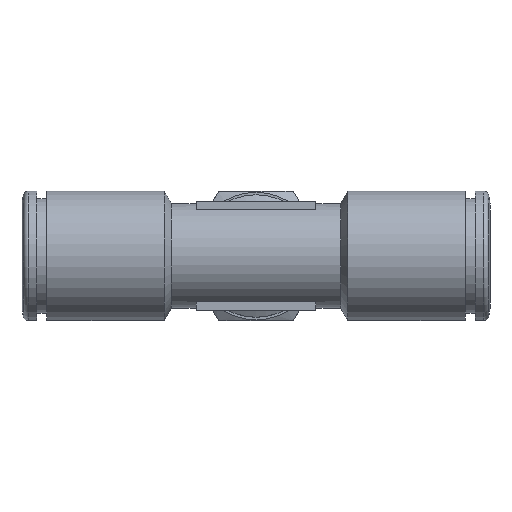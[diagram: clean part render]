
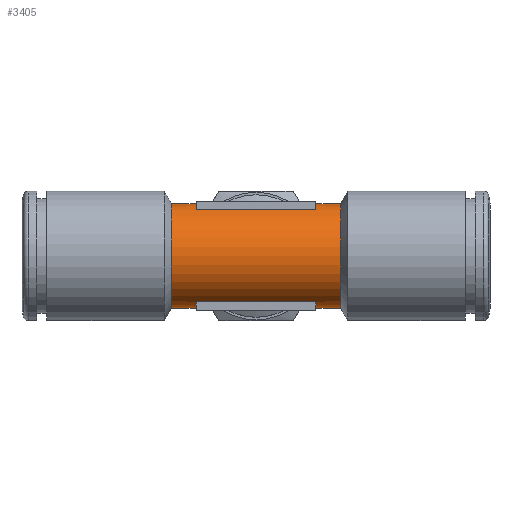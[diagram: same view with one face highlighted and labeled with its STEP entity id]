
A CAD part, top view. The second image highlights one B-rep face of the part: STEP entity #3405.
In plain terms, the highlighted cylindrical face has radius 5.25 mm (diameter 10.5 mm), a full revolution.
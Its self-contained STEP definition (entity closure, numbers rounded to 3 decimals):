
#17=ELLIPSE('',#3213,7.425,5.25);
#18=ELLIPSE('',#3216,7.425,5.25);
#1589=VECTOR('',#2854,1.);
#1590=VECTOR('',#2857,1.);
#1591=VECTOR('',#2860,1.);
#1592=VECTOR('',#2863,1.);
#1593=VECTOR('',#2866,1.);
#1594=VECTOR('',#2869,1.);
#1637=LINE('',#3600,#1589);
#1638=LINE('',#3604,#1590);
#1639=LINE('',#3608,#1591);
#1640=LINE('',#3612,#1592);
#1641=LINE('',#3616,#1593);
#1642=LINE('',#3620,#1594);
#1699=CYLINDRICAL_SURFACE('',#3210,5.25);
#1832=ORIENTED_EDGE('',*,*,#2261,.F.);
#1833=ORIENTED_EDGE('',*,*,#2262,.T.);
#1834=ORIENTED_EDGE('',*,*,#2263,.F.);
#1835=ORIENTED_EDGE('',*,*,#2264,.F.);
#1836=ORIENTED_EDGE('',*,*,#2265,.F.);
#1837=ORIENTED_EDGE('',*,*,#2266,.T.);
#1838=ORIENTED_EDGE('',*,*,#2267,.F.);
#1839=ORIENTED_EDGE('',*,*,#2268,.F.);
#1840=ORIENTED_EDGE('',*,*,#2269,.F.);
#1841=ORIENTED_EDGE('',*,*,#2270,.F.);
#1842=ORIENTED_EDGE('',*,*,#2271,.F.);
#1843=ORIENTED_EDGE('',*,*,#2272,.T.);
#1844=ORIENTED_EDGE('',*,*,#2273,.F.);
#1845=ORIENTED_EDGE('',*,*,#2274,.F.);
#2049=CIRCLE('',#3209,5.25);
#2050=CIRCLE('',#3211,5.25);
#2051=CIRCLE('',#3212,5.25);
#2052=CIRCLE('',#3214,5.25);
#2053=CIRCLE('',#3215,5.25);
#2054=CIRCLE('',#3217,5.25);
#2139=VERTEX_POINT('',#3593);
#2140=VERTEX_POINT('',#3596);
#2141=VERTEX_POINT('',#3598);
#2142=VERTEX_POINT('',#3599);
#2143=VERTEX_POINT('',#3601);
#2144=VERTEX_POINT('',#3603);
#2145=VERTEX_POINT('',#3605);
#2146=VERTEX_POINT('',#3607);
#2147=VERTEX_POINT('',#3609);
#2148=VERTEX_POINT('',#3611);
#2149=VERTEX_POINT('',#3613);
#2150=VERTEX_POINT('',#3615);
#2151=VERTEX_POINT('',#3617);
#2152=VERTEX_POINT('',#3619);
#2261=EDGE_CURVE('',#2139,#2139,#2049,.T.);
#2262=EDGE_CURVE('',#2140,#2140,#2050,.T.);
#2263=EDGE_CURVE('',#2141,#2142,#1637,.T.);
#2264=EDGE_CURVE('',#2143,#2141,#2051,.T.);
#2265=EDGE_CURVE('',#2144,#2143,#1638,.T.);
#2266=EDGE_CURVE('',#2144,#2145,#17,.T.);
#2267=EDGE_CURVE('',#2146,#2145,#1639,.T.);
#2268=EDGE_CURVE('',#2147,#2146,#2052,.T.);
#2269=EDGE_CURVE('',#2148,#2147,#1640,.T.);
#2270=EDGE_CURVE('',#2149,#2148,#2053,.T.);
#2271=EDGE_CURVE('',#2150,#2149,#1641,.T.);
#2272=EDGE_CURVE('',#2150,#2151,#18,.T.);
#2273=EDGE_CURVE('',#2152,#2151,#1642,.T.);
#2274=EDGE_CURVE('',#2142,#2152,#2054,.T.);
#2415=EDGE_LOOP('',(#1832));
#2416=EDGE_LOOP('',(#1833));
#2417=EDGE_LOOP('',(#1834,#1835,#1836,#1837,#1838,#1839,#1840,#1841,#1842,
#1843,#1844,#1845));
#2585=FACE_BOUND('',#2415,.T.);
#2586=FACE_BOUND('',#2416,.T.);
#2587=FACE_BOUND('',#2417,.T.);
#2848=DIRECTION('',(1.,0.,0.));
#2849=DIRECTION('',(0.,5.25,0.));
#2850=DIRECTION('',(-1.,0.,0.));
#2851=DIRECTION('',(0.,1.,0.));
#2852=DIRECTION('',(1.,0.,0.));
#2853=DIRECTION('',(0.,5.25,0.));
#2854=DIRECTION('',(-12.,0.,0.));
#2855=DIRECTION('',(-1.,0.,0.));
#2856=DIRECTION('',(0.,-2.5,4.617));
#2857=DIRECTION('',(3.5,0.,0.));
#2858=DIRECTION('',(0.707,0.707,0.));
#2859=DIRECTION('',(0.707,-0.707,0.));
#2860=DIRECTION('',(-3.5,0.,0.));
#2861=DIRECTION('',(-1.,0.,0.));
#2862=DIRECTION('',(0.,2.5,-4.617));
#2863=DIRECTION('',(12.,0.,0.));
#2864=DIRECTION('',(1.,0.,0.));
#2865=DIRECTION('',(0.,-2.5,-4.617));
#2866=DIRECTION('',(-3.5,0.,0.));
#2867=DIRECTION('',(-0.707,0.707,0.));
#2868=DIRECTION('',(-0.707,-0.707,0.));
#2869=DIRECTION('',(3.5,0.,0.));
#2870=DIRECTION('',(1.,0.,0.));
#2871=DIRECTION('',(0.,2.5,4.617));
#3209=AXIS2_PLACEMENT_3D('',#3594,#2848,#2849);
#3210=AXIS2_PLACEMENT_3D('',#3595,#2850,#2851);
#3211=AXIS2_PLACEMENT_3D('',#3597,#2852,#2853);
#3212=AXIS2_PLACEMENT_3D('',#3602,#2855,#2856);
#3213=AXIS2_PLACEMENT_3D('',#3606,#2858,#2859);
#3214=AXIS2_PLACEMENT_3D('',#3610,#2861,#2862);
#3215=AXIS2_PLACEMENT_3D('',#3614,#2864,#2865);
#3216=AXIS2_PLACEMENT_3D('',#3618,#2867,#2868);
#3217=AXIS2_PLACEMENT_3D('',#3621,#2870,#2871);
#3405=ADVANCED_FACE('',(#2585,#2586,#2587),#1699,.T.);
#3593=CARTESIAN_POINT('',(33.945,42.731,0.));
#3594=CARTESIAN_POINT('',(33.945,37.481,0.));
#3595=CARTESIAN_POINT('',(33.945,37.481,0.));
#3596=CARTESIAN_POINT('',(16.945,42.731,0.));
#3597=CARTESIAN_POINT('',(16.945,37.481,0.));
#3598=CARTESIAN_POINT('',(31.445,39.981,4.617));
#3599=CARTESIAN_POINT('',(19.445,39.981,4.617));
#3600=CARTESIAN_POINT('',(31.445,39.981,4.617));
#3601=CARTESIAN_POINT('',(31.445,34.981,4.617));
#3602=CARTESIAN_POINT('',(31.445,37.481,0.));
#3603=CARTESIAN_POINT('',(27.945,34.981,4.617));
#3604=CARTESIAN_POINT('',(27.945,34.981,4.617));
#3605=CARTESIAN_POINT('',(27.945,34.981,-4.617));
#3606=CARTESIAN_POINT('',(25.445,37.481,0.));
#3607=CARTESIAN_POINT('',(31.445,34.981,-4.617));
#3608=CARTESIAN_POINT('',(31.445,34.981,-4.617));
#3609=CARTESIAN_POINT('',(31.445,39.981,-4.617));
#3610=CARTESIAN_POINT('',(31.445,37.481,0.));
#3611=CARTESIAN_POINT('',(19.445,39.981,-4.617));
#3612=CARTESIAN_POINT('',(19.445,39.981,-4.617));
#3613=CARTESIAN_POINT('',(19.445,34.981,-4.617));
#3614=CARTESIAN_POINT('',(19.445,37.481,0.));
#3615=CARTESIAN_POINT('',(22.945,34.981,-4.617));
#3616=CARTESIAN_POINT('',(22.945,34.981,-4.617));
#3617=CARTESIAN_POINT('',(22.945,34.981,4.617));
#3618=CARTESIAN_POINT('',(25.445,37.481,0.));
#3619=CARTESIAN_POINT('',(19.445,34.981,4.617));
#3620=CARTESIAN_POINT('',(19.445,34.981,4.617));
#3621=CARTESIAN_POINT('',(19.445,37.481,0.));
